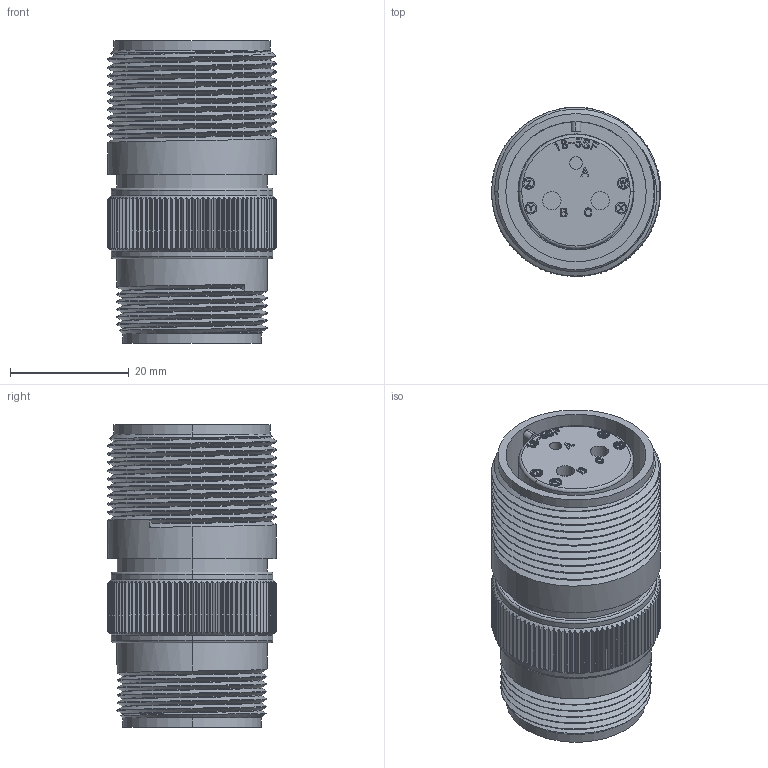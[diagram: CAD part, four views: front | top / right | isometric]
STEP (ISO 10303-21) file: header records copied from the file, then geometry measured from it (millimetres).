
FILE_DESCRIPTION (( 'STEP AP203' ), '1' );
FILE_NAME ('DMS3101A18-5S.STEP', '2017-07-21T07:37:23', ( '' ), ( '' ), 'SwSTEP 2.0', 'SolidWorks 2015', '' );
FILE_SCHEMA (( 'CONFIG_CONTROL_DESIGN' ));
Products named in the file (1): DMS3101A18-5S
Bounding box: 28.6 x 28.59 x 51.06 mm (x, y, z)
Volume: 19912.9 mm3; surface area: 13007.5 mm2
Topology: 1 solids, 1 shells, 1271 faces, 3600 edges, 2389 vertices
Faces by surface type: cylinder 569, plane 444, bspline 235, cone 13, torus 10
Entity records: 55039 total; most frequent: CARTESIAN_POINT 25675, ORIENTED_EDGE 7200, DIRECTION 4420, EDGE_CURVE 3600, VERTEX_POINT 2389, VECTOR 1556, LINE 1556, B_SPLINE_CURVE_WITH_KNOTS 1532
